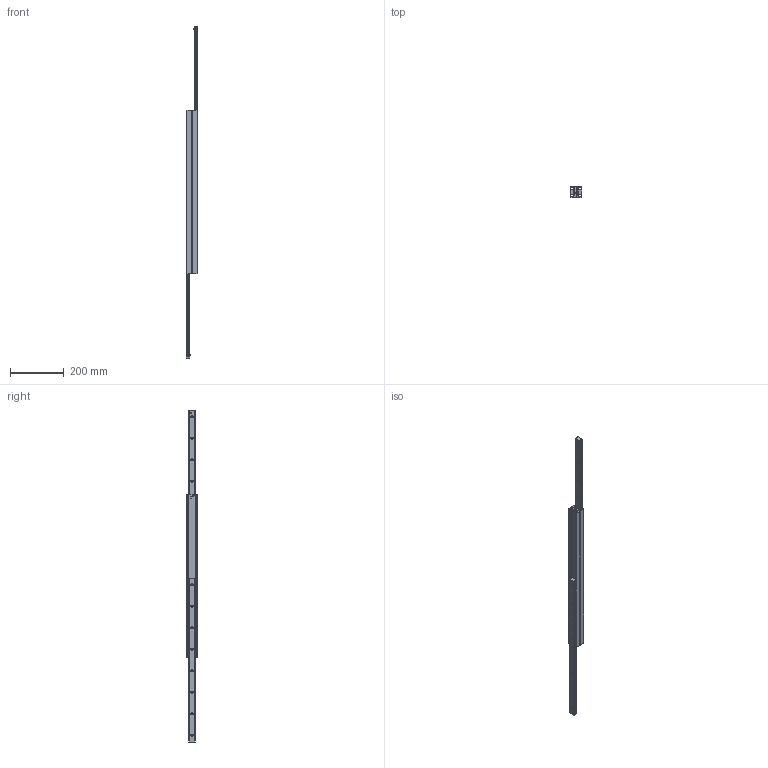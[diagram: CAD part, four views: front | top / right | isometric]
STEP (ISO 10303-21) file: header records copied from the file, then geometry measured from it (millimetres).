
FILE_DESCRIPTION( ( 'STEP AP214' ), '1' );
FILE_NAME( 'p:/temp/worker_93/temp/exporttempdir_5908_1424_RvszZ/format_0/DEF43-610626.stp', '2020-03-20T19:53:31', ( 'License CC BY-ND 4.0' ), ( 'CADENAS' ), ' ', 'PARTsolutions', ' ' );
FILE_SCHEMA( ( 'AUTOMOTIVE_DESIGN { 1 0 10303 214 1 1 1 1 }' ) );
Length unit declared in the file: millimetre
Products named in the file (4): DEF43-610626; _432161062612-gf; _43216106261-ei; _432161062611-gf
Assembly tree (4 placements, depth 2):
  DEF43-610626
    _432161062612-gf
    _43216106261-ei  x2
    _432161062611-gf
Bounding box: 44 x 43 x 1236 mm (x, y, z)
Volume: 754270 mm3; surface area: 289160 mm2
Topology: 4 solids, 4 shells, 200 faces, 504 edges, 324 vertices
Faces by surface type: plane 102, cylinder 62, cone 36
Full cylindrical faces by diameter (mm): 4.134 x2, 6.647 x16, 7 x2
Entity records: 5612 total; most frequent: DIRECTION 772, CARTESIAN_POINT 725, ORIENTED_EDGE 654, EDGE_CURVE 327, AXIS2_PLACEMENT_3D 288, EDGE_LOOP 244, VERTEX_POINT 241, LINE 196
